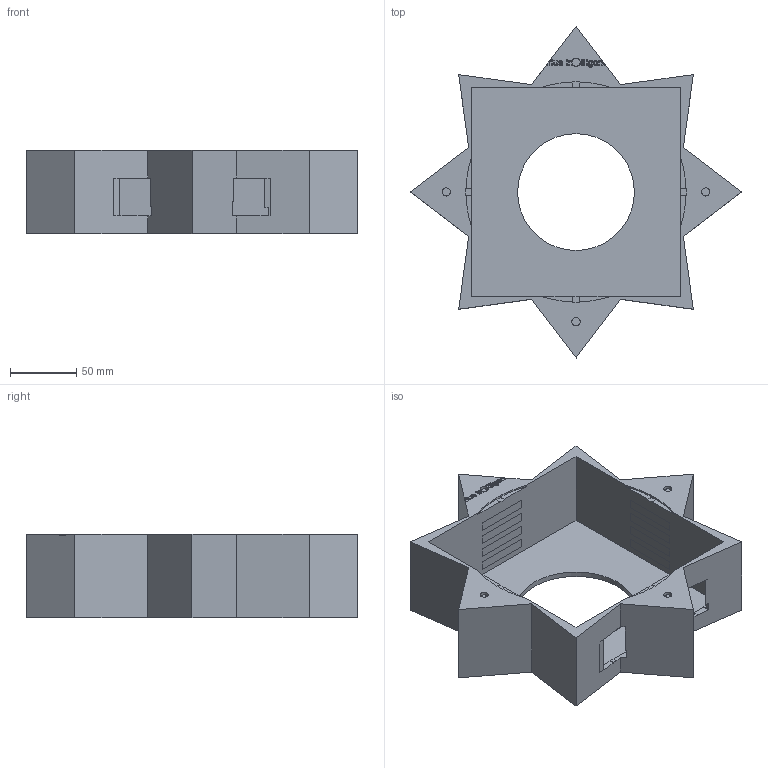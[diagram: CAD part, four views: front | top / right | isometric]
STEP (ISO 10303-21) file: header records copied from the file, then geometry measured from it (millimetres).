
FILE_DESCRIPTION(('Open CASCADE Model'),'2;1');
FILE_NAME('Open CASCADE Shape Model','2026-07-20T15:40:32',('Author'),( 'Open CASCADE'),'Open CASCADE STEP processor 7.7','Open CASCADE 7.7' ,'Unknown');
FILE_SCHEMA(('AUTOMOTIVE_DESIGN { 1 0 10303 214 1 1 1 1 }'));
Length unit declared in the file: millimetre
Products named in the file (1): Open CASCADE STEP translator 7.7 1
Bounding box: 250 x 250 x 63 mm (x, y, z)
Volume: 598201.7 mm3; surface area: 155013.8 mm2
Topology: 1 solids, 9 shells, 370 faces, 993 edges, 662 vertices
Faces by surface type: plane 244, extrusion 109, cylinder 17
Full cylindrical faces by diameter (mm): 6.15 x4, 12.3 x4, 88 x1
Entity records: 24329 total; most frequent: CARTESIAN_POINT 5617, DIRECTION 2888, VECTOR 2264, LINE 2155, ORIENTED_EDGE 1986, PCURVE 1986, DEFINITIONAL_REPRESENTATION 1986, EDGE_CURVE 993
